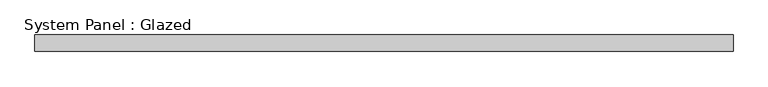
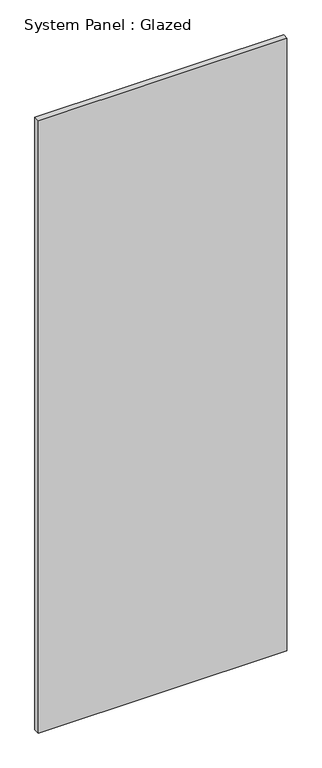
"""IFC4 building model written with IfcOpenShell, lengths in millimetres: plate geometry, System Panel : Glazed."""

import ifcopenshell
import ifcopenshell.guid

model = None  # the IFC model being written
_history = None  # IfcOwnerHistory: only IFC2X3 demands one
_inside = {}  # id of a spatial element -> (the spatial element, [elements in it])
_under = {}  # id of a project, library or spatial element -> (it, [spatial elements below it])
_declared = {}  # id of a project -> (the project, [libraries it declares])
_typed = {}  # id of a type object -> (the type object, [elements of that type])
_made_of = {}  # id of a material, layer set ... -> (it, [elements and type objects made of it])


def new_model(schema):
    """Start an empty IFC model of exactly this schema.

    Asked for "IFC4X3", IfcOpenShell would pick the latest addendum, in which some entities
    have other attributes; the version numbers below select the first issue.
    IFC2X3 requires an IfcOwnerHistory on every rooted entity: one is made here for all.
    """
    global model, _history
    if schema == "IFC4X3":
        model = ifcopenshell.file(schema_version=(4, 3, 0, 0))
    else:
        model = ifcopenshell.file(schema=schema)
    _inside.clear()
    _under.clear()
    _declared.clear()
    _typed.clear()
    _made_of.clear()
    _history = None
    if model.schema == "IFC2X3":
        org = make("IfcOrganization", Name="unknown")
        user = make(
            "IfcPersonAndOrganization",
            ThePerson=make("IfcPerson", FamilyName="unknown"),
            TheOrganization=org,
        )
        app = make(
            "IfcApplication",
            ApplicationDeveloper=org,
            Version="unknown",
            ApplicationFullName="unknown",
            ApplicationIdentifier="unknown",
        )
        _history = make(
            "IfcOwnerHistory",
            OwningUser=user,
            OwningApplication=app,
            ChangeAction="ADDED",
            CreationDate=0,
        )
    return model


def make(cls, **values):
    """One entity of the class cls with the attributes given. An attribute that is None is left unset."""
    return model.create_entity(
        cls, **{name: value for name, value in values.items() if value is not None}
    )


def rooted(cls, **values):
    """An entity with a GlobalId (a new one), such as an element, a storey or a relation."""
    return make(cls, GlobalId=ifcopenshell.guid.new(), OwnerHistory=_history, **values)


def si_unit(unit_type, name, prefix=None):
    """IfcSIUnit, for example si_unit("LENGTHUNIT", "METRE", prefix="MILLI")."""
    return make("IfcSIUnit", UnitType=unit_type, Prefix=prefix, Name=name)


def assignment(units):
    """IfcUnitAssignment: the units of a project."""
    return None if units is None else make("IfcUnitAssignment", Units=units)


def point(xyz):
    """IfcCartesianPoint."""
    return None if xyz is None else make("IfcCartesianPoint", Coordinates=xyz)


def direction(xyz):
    """IfcDirection."""
    return None if xyz is None else make("IfcDirection", DirectionRatios=xyz)


def frame(location, z_axis=None, x_axis=None):
    """IfcAxis2Placement3D, a coordinate frame: its origin and axes. An axis left out is left unset."""
    return make(
        "IfcAxis2Placement3D",
        Location=point(location),
        Axis=direction(z_axis),
        RefDirection=direction(x_axis),
    )


def origin():
    """The frame at (0, 0, 0) with its axes left unset."""
    return frame((0.0, 0.0, 0.0))


def origin_with_axes():
    """The frame at (0, 0, 0) with the z axis (0, 0, 1) and the x axis (1, 0, 0) written out."""
    return frame((0.0, 0.0, 0.0), z_axis=(0.0, 0.0, 1.0), x_axis=(1.0, 0.0, 0.0))


def place(relative_to, where):
    """IfcLocalPlacement: puts the frame where relative to a parent placement (None: the world)."""
    return make(
        "IfcLocalPlacement", PlacementRelTo=relative_to, RelativePlacement=where
    )


def context(
    kind, dimensions, precision=None, world=None, true_north=None, identifier=None
):
    """IfcGeometricRepresentationContext, for example the 3D "Model" context."""
    return make(
        "IfcGeometricRepresentationContext",
        ContextIdentifier=identifier,
        ContextType=kind,
        CoordinateSpaceDimension=dimensions,
        Precision=precision,
        WorldCoordinateSystem=world,
        TrueNorth=true_north,
    )


def project(units=None, contexts=None):
    """IfcProject with its units and contexts."""
    return rooted(
        "IfcProject",
        Name="project",
        RepresentationContexts=contexts,
        UnitsInContext=assignment(units),
    )


def spatial(cls, under=None, at=None, **own):
    """A site, building, storey or space (cls), placed at a placement, below another one or the project."""
    s = rooted(cls, ObjectPlacement=at, **own)
    if under is not None:
        _under.setdefault(under.id(), (under, []))[1].append(s)
    return s


def polyline(points):
    """IfcPolyline through the points."""
    return make("IfcPolyline", Points=[point(p) for p in points])


def outline(outer, holes=None, kind="AREA"):
    """IfcArbitraryClosedProfileDef: a profile drawn as a closed curve; with holes, ...WithVoids."""
    if holes is None:
        return make("IfcArbitraryClosedProfileDef", ProfileType=kind, OuterCurve=outer)
    return make(
        "IfcArbitraryProfileDefWithVoids",
        ProfileType=kind,
        OuterCurve=outer,
        InnerCurves=holes,
    )


def extrude(swept, where, along, depth):
    """IfcExtrudedAreaSolid: the profile swept, set in the frame where, extruded along a direction by depth."""
    return make(
        "IfcExtrudedAreaSolid",
        SweptArea=swept,
        Position=where,
        ExtrudedDirection=direction(along),
        Depth=depth,
    )


def shape(context_of_items, identifier, shape_type, items):
    """IfcShapeRepresentation: the items that make up one representation, for example the "Body"."""
    return make(
        "IfcShapeRepresentation",
        ContextOfItems=context_of_items,
        RepresentationIdentifier=identifier,
        RepresentationType=shape_type,
        Items=items,
    )


def source(mapping_origin, context_of_items, identifier, shape_type, items):
    """IfcRepresentationMap: a shape defined once, which mapped items show again and again."""
    return make(
        "IfcRepresentationMap",
        MappingOrigin=mapping_origin,
        MappedRepresentation=shape(context_of_items, identifier, shape_type, items),
    )


def transform(
    local_origin,
    x_axis=None,
    y_axis=None,
    z_axis=None,
    scale=None,
    scale2=None,
    scale3=None,
    uniform=True,
):
    """IfcCartesianTransformationOperator3D, or its non-uniform kind. x_axis, y_axis, z_axis: its Axis1, 2, 3."""
    if uniform:
        return make(
            "IfcCartesianTransformationOperator3D",
            Axis1=direction(x_axis),
            Axis2=direction(y_axis),
            LocalOrigin=point(local_origin),
            Scale=scale,
            Axis3=direction(z_axis),
        )
    return make(
        "IfcCartesianTransformationOperator3DnonUniform",
        Axis1=direction(x_axis),
        Axis2=direction(y_axis),
        LocalOrigin=point(local_origin),
        Scale=scale,
        Axis3=direction(z_axis),
        Scale2=scale2,
        Scale3=scale3,
    )


def mapped(mapping_source, mapping_target):
    """IfcMappedItem: shows the shape of a source again, moved by a transform."""
    return make(
        "IfcMappedItem", MappingSource=mapping_source, MappingTarget=mapping_target
    )


def made_of(thing, what):
    """Note that an element or type object is made of a material, layer set ...; save() writes the relation."""
    if what is not None:
        _made_of.setdefault(what.id(), (what, []))[1].append(thing)
    return thing


def element(
    cls,
    number,
    at=None,
    inside=None,
    cuts=None,
    type_object=None,
    material=None,
    context=None,
    identifier="Body",
    shape_type=None,
    held_by="IfcProductDefinitionShape",
    body=None,
    shapes=None,
    **own,
):
    """One element of the class cls, such as IfcWall. Its Tag is "e" and its number.

    at: its placement. inside: the storey or other place that contains it. cuts: it is an
    opening in that element (IfcRelVoidsElement). A single representation is given by context,
    identifier, shape_type and body (its items); several are given by shapes. held_by: the class
    of the entity that holds the representations. save() writes the other relations.
    """
    e = rooted(cls, Tag="e%d" % number, ObjectPlacement=at, **own)
    if body is not None:
        shapes = [shape(context, identifier, shape_type, body)]
    if shapes is not None:
        e.Representation = make(held_by, Representations=shapes)
    if inside is not None:
        _inside.setdefault(inside.id(), (inside, []))[1].append(e)
    if cuts is not None:
        rooted(
            "IfcRelVoidsElement", RelatingBuildingElement=cuts, RelatedOpeningElement=e
        )
    if type_object is not None:
        _typed.setdefault(type_object.id(), (type_object, []))[1].append(e)
    return made_of(e, material)


def aggregate(whole, parts):
    """IfcRelAggregates: a whole, such as a stair, and the parts it consists of."""
    return rooted("IfcRelAggregates", RelatingObject=whole, RelatedObjects=parts)


def save(model, path):
    """Write the relations noted so far, then the file.

    IfcRelAggregates (storeys below a building ...), IfcRelContainedInSpatialStructure (elements
    in a storey), IfcRelDefinesByType, IfcRelAssociatesMaterial and IfcRelDeclares: one each for
    every whole, place, type object, material and project.
    """
    for whole, parts in _under.values():
        aggregate(whole, parts)
    for where, things in _inside.values():
        rooted(
            "IfcRelContainedInSpatialStructure",
            RelatedElements=things,
            RelatingStructure=where,
        )
    for kind, things in _typed.values():
        rooted("IfcRelDefinesByType", RelatedObjects=things, RelatingType=kind)
    for what, things in _made_of.values():
        rooted("IfcRelAssociatesMaterial", RelatedObjects=things, RelatingMaterial=what)
    for by, libraries in _declared.values():
        rooted("IfcRelDeclares", RelatingContext=by, RelatedDefinitions=libraries)
    model.write(path)


def system_panel_glazed_a468c75f(model_context):
    return source(origin(), model_context, "Body", "SweptSolid", [
        extrude(outline(polyline([(537.4999999, -44.45), (-537.4999999, -44.45), (-537.4999999, -19.05), (537.4999999, -19.05), (537.4999999, -44.45)])), origin_with_axes(), (0.0, 0.0, 1.0), 2800.0),
    ])


if __name__ == "__main__":
    model = new_model("IFC4")
    model_context = context("Model", 3, world=origin())
    ifc_project = project(units=[si_unit("LENGTHUNIT", "METRE", prefix="MILLI")], contexts=[model_context])
    site = spatial("IfcSite", under=ifc_project)
    building = spatial("IfcBuilding", under=site)
    placement = place(None, origin())
    system_panel_glazed_shape = system_panel_glazed_a468c75f(model_context)
    element("IfcPlate", 1, ObjectType="System Panel : Glazed", at=placement, inside=building, context=model_context, shape_type="MappedRepresentation", body=[
        mapped(system_panel_glazed_shape, transform((0.0, 0.0, 0.0), x_axis=(1.0, 0.0, 0.0), y_axis=(0.0, 1.0, 0.0), z_axis=(0.0, 0.0, 1.0))),
    ])
    save(model, "model.ifc")
